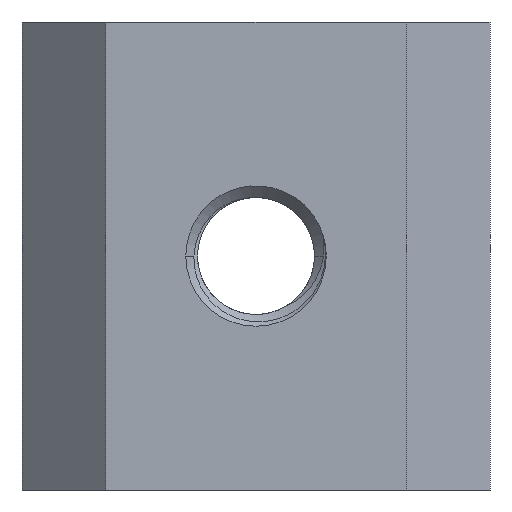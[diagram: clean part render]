
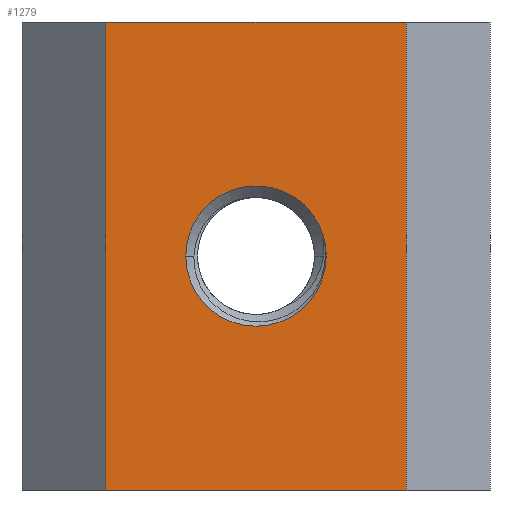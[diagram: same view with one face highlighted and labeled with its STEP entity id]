
A CAD part, front view. The second image highlights one B-rep face of the part: STEP entity #1279.
In plain terms, the highlighted planar face has unit normal (0, -1, 0).
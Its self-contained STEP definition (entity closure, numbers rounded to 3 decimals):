
#2 = ORIENTED_EDGE ( 'NONE', *, *, #2088, .T. ) ;
#60 = EDGE_LOOP ( 'NONE', ( #1857, #565, #1030 ) ) ;
#123 = DIRECTION ( 'NONE',  ( 0., 1., 0. ) ) ;
#190 = EDGE_CURVE ( 'NONE', #800, #783, #2779, .T. ) ;
#208 = DIRECTION ( 'NONE',  ( -1., 0., 0. ) ) ;
#218 = DIRECTION ( 'NONE',  ( 1., 0., 0. ) ) ;
#444 = CARTESIAN_POINT ( 'NONE',  ( 0., 0., 0. ) ) ;
#504 = CARTESIAN_POINT ( 'NONE',  ( -6.429, 0., 10. ) ) ;
#532 = DIRECTION ( 'NONE',  ( 0., 1., 0. ) ) ;
#544 = CARTESIAN_POINT ( 'NONE',  ( 6.429, 0., 10. ) ) ;
#565 = ORIENTED_EDGE ( 'NONE', *, *, #2097, .T. ) ;
#610 = CARTESIAN_POINT ( 'NONE',  ( -3., 0., 0. ) ) ;
#630 = EDGE_CURVE ( 'NONE', #3130, #1781, #2071, .T. ) ;
#783 = VERTEX_POINT ( 'NONE', #1062 ) ;
#800 = VERTEX_POINT ( 'NONE', #610 ) ;
#853 = LINE ( 'NONE', #544, #1819 ) ;
#945 = AXIS2_PLACEMENT_3D ( 'NONE', #2113, #532, #208 ) ;
#959 = VECTOR ( 'NONE', #1432, 1000. ) ;
#983 = DIRECTION ( 'NONE',  ( -1., 0., 0. ) ) ;
#1013 = ORIENTED_EDGE ( 'NONE', *, *, #630, .T. ) ;
#1030 = ORIENTED_EDGE ( 'NONE', *, *, #190, .T. ) ;
#1062 = CARTESIAN_POINT ( 'NONE',  ( 2.851, 0., 0.933 ) ) ;
#1067 = ORIENTED_EDGE ( 'NONE', *, *, #2928, .F. ) ;
#1068 = FACE_BOUND ( 'NONE', #60, .T. ) ;
#1105 = VECTOR ( 'NONE', #1158, 1000. ) ;
#1130 = DIRECTION ( 'NONE',  ( 0., 0., -1. ) ) ;
#1140 = VERTEX_POINT ( 'NONE', #1444 ) ;
#1152 = VERTEX_POINT ( 'NONE', #504 ) ;
#1158 = DIRECTION ( 'NONE',  ( 0., 0., -1. ) ) ;
#1279 = ADVANCED_FACE ( 'NONE', ( #1068, #1384 ), #1927, .F. ) ;
#1299 = DIRECTION ( 'NONE',  ( 0., 1., 0. ) ) ;
#1365 = EDGE_CURVE ( 'NONE', #783, #2143, #2754, .T. ) ;
#1384 = FACE_OUTER_BOUND ( 'NONE', #2094, .T. ) ;
#1432 = DIRECTION ( 'NONE',  ( 1., 0., 0. ) ) ;
#1444 = CARTESIAN_POINT ( 'NONE',  ( 6.429, 0., 10. ) ) ;
#1445 = CARTESIAN_POINT ( 'NONE',  ( 6.429, 0., 10. ) ) ;
#1471 = CARTESIAN_POINT ( 'NONE',  ( -6.429, 0., 10. ) ) ;
#1543 = AXIS2_PLACEMENT_3D ( 'NONE', #1613, #1299, #983 ) ;
#1592 = CARTESIAN_POINT ( 'NONE',  ( 6.429, 0., -10. ) ) ;
#1613 = CARTESIAN_POINT ( 'NONE',  ( 6.429, 0., 10. ) ) ;
#1625 = AXIS2_PLACEMENT_3D ( 'NONE', #444, #123, #2934 ) ;
#1714 = ORIENTED_EDGE ( 'NONE', *, *, #2337, .F. ) ;
#1748 = CARTESIAN_POINT ( 'NONE',  ( 6.429, 0., -10. ) ) ;
#1781 = VERTEX_POINT ( 'NONE', #1592 ) ;
#1789 = LINE ( 'NONE', #1471, #1105 ) ;
#1819 = VECTOR ( 'NONE', #218, 1000. ) ;
#1857 = ORIENTED_EDGE ( 'NONE', *, *, #1365, .T. ) ;
#1927 = PLANE ( 'NONE',  #1543 ) ;
#1935 = DIRECTION ( 'NONE',  ( -1., 0., 0. ) ) ;
#1943 = CARTESIAN_POINT ( 'NONE',  ( -6.429, 0., -10. ) ) ;
#2071 = LINE ( 'NONE', #1748, #959 ) ;
#2088 = EDGE_CURVE ( 'NONE', #1152, #3130, #1789, .T. ) ;
#2094 = EDGE_LOOP ( 'NONE', ( #1013, #1067, #1714, #2 ) ) ;
#2097 = EDGE_CURVE ( 'NONE', #2143, #800, #2764, .T. ) ;
#2113 = CARTESIAN_POINT ( 'NONE',  ( 0., 0., 0. ) ) ;
#2143 = VERTEX_POINT ( 'NONE', #3017 ) ;
#2264 = DIRECTION ( 'NONE',  ( 0., 1., 0. ) ) ;
#2337 = EDGE_CURVE ( 'NONE', #1152, #1140, #853, .T. ) ;
#2409 = VECTOR ( 'NONE', #1130, 1000. ) ;
#2588 = CARTESIAN_POINT ( 'NONE',  ( 0., 0., 0. ) ) ;
#2739 = LINE ( 'NONE', #1445, #2409 ) ;
#2754 = CIRCLE ( 'NONE', #1625, 3. ) ;
#2764 = CIRCLE ( 'NONE', #945, 3. ) ;
#2779 = CIRCLE ( 'NONE', #3069, 3. ) ;
#2928 = EDGE_CURVE ( 'NONE', #1140, #1781, #2739, .T. ) ;
#2934 = DIRECTION ( 'NONE',  ( -1., 0., 0. ) ) ;
#3017 = CARTESIAN_POINT ( 'NONE',  ( 3., 0., 0. ) ) ;
#3069 = AXIS2_PLACEMENT_3D ( 'NONE', #2588, #2264, #1935 ) ;
#3130 = VERTEX_POINT ( 'NONE', #1943 ) ;
